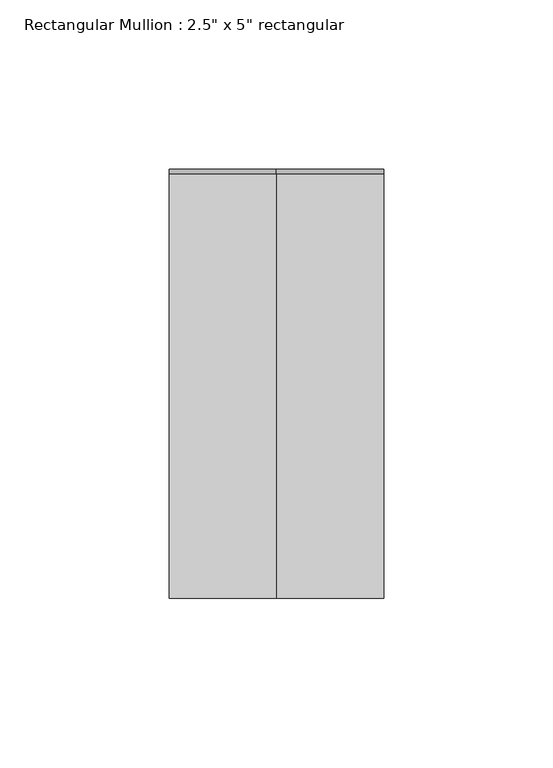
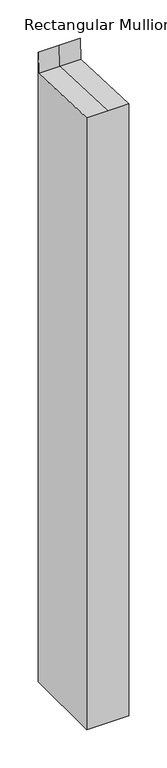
"""IFC4 building model written with IfcOpenShell, lengths in millimetres: member geometry."""

import ifcopenshell
import ifcopenshell.guid

model = None  # the IFC model being written
_history = None  # IfcOwnerHistory: only IFC2X3 demands one
_inside = {}  # id of a spatial element -> (the spatial element, [elements in it])
_under = {}  # id of a project, library or spatial element -> (it, [spatial elements below it])
_declared = {}  # id of a project -> (the project, [libraries it declares])
_typed = {}  # id of a type object -> (the type object, [elements of that type])
_made_of = {}  # id of a material, layer set ... -> (it, [elements and type objects made of it])


def new_model(schema):
    """Start an empty IFC model of exactly this schema.

    Asked for "IFC4X3", IfcOpenShell would pick the latest addendum, in which some entities
    have other attributes; the version numbers below select the first issue.
    IFC2X3 requires an IfcOwnerHistory on every rooted entity: one is made here for all.
    """
    global model, _history
    if schema == "IFC4X3":
        model = ifcopenshell.file(schema_version=(4, 3, 0, 0))
    else:
        model = ifcopenshell.file(schema=schema)
    _inside.clear()
    _under.clear()
    _declared.clear()
    _typed.clear()
    _made_of.clear()
    _history = None
    if model.schema == "IFC2X3":
        org = make("IfcOrganization", Name="unknown")
        user = make(
            "IfcPersonAndOrganization",
            ThePerson=make("IfcPerson", FamilyName="unknown"),
            TheOrganization=org,
        )
        app = make(
            "IfcApplication",
            ApplicationDeveloper=org,
            Version="unknown",
            ApplicationFullName="unknown",
            ApplicationIdentifier="unknown",
        )
        _history = make(
            "IfcOwnerHistory",
            OwningUser=user,
            OwningApplication=app,
            ChangeAction="ADDED",
            CreationDate=0,
        )
    return model


def make(cls, **values):
    """One entity of the class cls with the attributes given. An attribute that is None is left unset."""
    return model.create_entity(
        cls, **{name: value for name, value in values.items() if value is not None}
    )


def rooted(cls, **values):
    """An entity with a GlobalId (a new one), such as an element, a storey or a relation."""
    return make(cls, GlobalId=ifcopenshell.guid.new(), OwnerHistory=_history, **values)


def si_unit(unit_type, name, prefix=None):
    """IfcSIUnit, for example si_unit("LENGTHUNIT", "METRE", prefix="MILLI")."""
    return make("IfcSIUnit", UnitType=unit_type, Prefix=prefix, Name=name)


def assignment(units):
    """IfcUnitAssignment: the units of a project."""
    return None if units is None else make("IfcUnitAssignment", Units=units)


def point(xyz):
    """IfcCartesianPoint."""
    return None if xyz is None else make("IfcCartesianPoint", Coordinates=xyz)


def direction(xyz):
    """IfcDirection."""
    return None if xyz is None else make("IfcDirection", DirectionRatios=xyz)


def frame(location, z_axis=None, x_axis=None):
    """IfcAxis2Placement3D, a coordinate frame: its origin and axes. An axis left out is left unset."""
    return make(
        "IfcAxis2Placement3D",
        Location=point(location),
        Axis=direction(z_axis),
        RefDirection=direction(x_axis),
    )


def origin():
    """The frame at (0, 0, 0) with its axes left unset."""
    return frame((0.0, 0.0, 0.0))


def place(relative_to, where):
    """IfcLocalPlacement: puts the frame where relative to a parent placement (None: the world)."""
    return make(
        "IfcLocalPlacement", PlacementRelTo=relative_to, RelativePlacement=where
    )


def context(
    kind, dimensions, precision=None, world=None, true_north=None, identifier=None
):
    """IfcGeometricRepresentationContext, for example the 3D "Model" context."""
    return make(
        "IfcGeometricRepresentationContext",
        ContextIdentifier=identifier,
        ContextType=kind,
        CoordinateSpaceDimension=dimensions,
        Precision=precision,
        WorldCoordinateSystem=world,
        TrueNorth=true_north,
    )


def project(units=None, contexts=None):
    """IfcProject with its units and contexts."""
    return rooted(
        "IfcProject",
        Name="project",
        RepresentationContexts=contexts,
        UnitsInContext=assignment(units),
    )


def spatial(cls, under=None, at=None, **own):
    """A site, building, storey or space (cls), placed at a placement, below another one or the project."""
    s = rooted(cls, ObjectPlacement=at, **own)
    if under is not None:
        _under.setdefault(under.id(), (under, []))[1].append(s)
    return s


def faces_of(points, faces, orient=None, outer=None):
    """IfcFace entities. A face is a list of loops; a loop is a list of indices into points, from 0.

    orient and outer hold one flag for each loop. By default every Orientation is true, the
    first loop of a face is its IfcFaceOuterBound and the others are IfcFaceBound.
    """
    made = []
    for i, loops in enumerate(faces):
        bounds = []
        for j, loop in enumerate(loops):
            is_outer = j == 0 if outer is None else outer[i][j]
            bounds.append(
                make(
                    "IfcFaceOuterBound" if is_outer else "IfcFaceBound",
                    Bound=make("IfcPolyLoop", Polygon=[points[k] for k in loop]),
                    Orientation=True if orient is None else orient[i][j],
                )
            )
        made.append(make("IfcFace", Bounds=bounds))
    return made


def faceted_brep(points, faces, orient=None, outer=None, voids=None):
    """IfcFacetedBrep: a solid bounded by flat faces; with voids (closed shells), ...WithVoids."""
    shared = [point(p) for p in points]
    hull = make("IfcClosedShell", CfsFaces=faces_of(shared, faces, orient, outer))
    if voids is None:
        return make("IfcFacetedBrep", Outer=hull)
    return make(
        "IfcFacetedBrepWithVoids",
        Outer=hull,
        Voids=[
            make(cls, CfsFaces=faces_of(shared, fs, o, b)) for cls, fs, o, b in voids
        ],
    )


def shape(context_of_items, identifier, shape_type, items):
    """IfcShapeRepresentation: the items that make up one representation, for example the "Body"."""
    return make(
        "IfcShapeRepresentation",
        ContextOfItems=context_of_items,
        RepresentationIdentifier=identifier,
        RepresentationType=shape_type,
        Items=items,
    )


def source(mapping_origin, context_of_items, identifier, shape_type, items):
    """IfcRepresentationMap: a shape defined once, which mapped items show again and again."""
    return make(
        "IfcRepresentationMap",
        MappingOrigin=mapping_origin,
        MappedRepresentation=shape(context_of_items, identifier, shape_type, items),
    )


def transform(
    local_origin,
    x_axis=None,
    y_axis=None,
    z_axis=None,
    scale=None,
    scale2=None,
    scale3=None,
    uniform=True,
):
    """IfcCartesianTransformationOperator3D, or its non-uniform kind. x_axis, y_axis, z_axis: its Axis1, 2, 3."""
    if uniform:
        return make(
            "IfcCartesianTransformationOperator3D",
            Axis1=direction(x_axis),
            Axis2=direction(y_axis),
            LocalOrigin=point(local_origin),
            Scale=scale,
            Axis3=direction(z_axis),
        )
    return make(
        "IfcCartesianTransformationOperator3DnonUniform",
        Axis1=direction(x_axis),
        Axis2=direction(y_axis),
        LocalOrigin=point(local_origin),
        Scale=scale,
        Axis3=direction(z_axis),
        Scale2=scale2,
        Scale3=scale3,
    )


def mapped(mapping_source, mapping_target):
    """IfcMappedItem: shows the shape of a source again, moved by a transform."""
    return make(
        "IfcMappedItem", MappingSource=mapping_source, MappingTarget=mapping_target
    )


def made_of(thing, what):
    """Note that an element or type object is made of a material, layer set ...; save() writes the relation."""
    if what is not None:
        _made_of.setdefault(what.id(), (what, []))[1].append(thing)
    return thing


def element(
    cls,
    number,
    at=None,
    inside=None,
    cuts=None,
    type_object=None,
    material=None,
    context=None,
    identifier="Body",
    shape_type=None,
    held_by="IfcProductDefinitionShape",
    body=None,
    shapes=None,
    **own,
):
    """One element of the class cls, such as IfcWall. Its Tag is "e" and its number.

    at: its placement. inside: the storey or other place that contains it. cuts: it is an
    opening in that element (IfcRelVoidsElement). A single representation is given by context,
    identifier, shape_type and body (its items); several are given by shapes. held_by: the class
    of the entity that holds the representations. save() writes the other relations.
    """
    e = rooted(cls, Tag="e%d" % number, ObjectPlacement=at, **own)
    if body is not None:
        shapes = [shape(context, identifier, shape_type, body)]
    if shapes is not None:
        e.Representation = make(held_by, Representations=shapes)
    if inside is not None:
        _inside.setdefault(inside.id(), (inside, []))[1].append(e)
    if cuts is not None:
        rooted(
            "IfcRelVoidsElement", RelatingBuildingElement=cuts, RelatedOpeningElement=e
        )
    if type_object is not None:
        _typed.setdefault(type_object.id(), (type_object, []))[1].append(e)
    return made_of(e, material)


def aggregate(whole, parts):
    """IfcRelAggregates: a whole, such as a stair, and the parts it consists of."""
    return rooted("IfcRelAggregates", RelatingObject=whole, RelatedObjects=parts)


def save(model, path):
    """Write the relations noted so far, then the file.

    IfcRelAggregates (storeys below a building ...), IfcRelContainedInSpatialStructure (elements
    in a storey), IfcRelDefinesByType, IfcRelAssociatesMaterial and IfcRelDeclares: one each for
    every whole, place, type object, material and project.
    """
    for whole, parts in _under.values():
        aggregate(whole, parts)
    for where, things in _inside.values():
        rooted(
            "IfcRelContainedInSpatialStructure",
            RelatedElements=things,
            RelatingStructure=where,
        )
    for kind, things in _typed.values():
        rooted("IfcRelDefinesByType", RelatedObjects=things, RelatingType=kind)
    for what, things in _made_of.values():
        rooted("IfcRelAssociatesMaterial", RelatedObjects=things, RelatingMaterial=what)
    for by, libraries in _declared.values():
        rooted("IfcRelDeclares", RelatingContext=by, RelatedDefinitions=libraries)
    model.write(path)


def member_50dcdc43(model_context):
    return source(origin(), model_context, "Body", "Brep", [
        faceted_brep([(31.75, 63.5, -976.0678627), (31.75, -63.5, -976.0678627), (-31.75, -63.5, -976.0678627), (-31.75, 63.5, -976.0678627), (-31.75, 63.5, 30.354381), (0.0, 63.5, 30.354381), (31.75, 63.5, 30.354381), (-31.75, -63.5, 2.7618988), (-31.75, 62.043738, -2.7592318), (31.75, -63.5, 2.7618988), (0.0, -63.5, 2.7618988), (31.75, 62.043738, -2.7592318), (0.0, 62.043738, -2.7592318)], [[[0, 1, 2, 3]], [[4, 5, 6, 0, 3]], [[7, 8, 4, 3, 2]], [[9, 10, 7, 2, 1]], [[6, 11, 9, 1, 0]], [[6, 5, 12, 11]], [[5, 4, 8, 12]], [[8, 7, 10, 12]], [[10, 9, 11, 12]]]),
    ])


if __name__ == "__main__":
    model = new_model("IFC4")
    model_context = context("Model", 3, world=origin())
    ifc_project = project(units=[si_unit("LENGTHUNIT", "METRE", prefix="MILLI")], contexts=[model_context])
    site = spatial("IfcSite", under=ifc_project)
    building = spatial("IfcBuilding", under=site)
    placement = place(None, origin())
    member_shape = member_50dcdc43(model_context)
    element("IfcMember", 1, ObjectType="Rectangular Mullion : 2.5\" x 5\" rectangular", at=placement, inside=building, context=model_context, shape_type="MappedRepresentation", body=[
        mapped(member_shape, transform((0.0, 0.0, 0.0), x_axis=(1.0, 0.0, 0.0), y_axis=(0.0, 1.0, 0.0), z_axis=(0.0, 0.0, 1.0))),
    ])
    save(model, "model.ifc")
